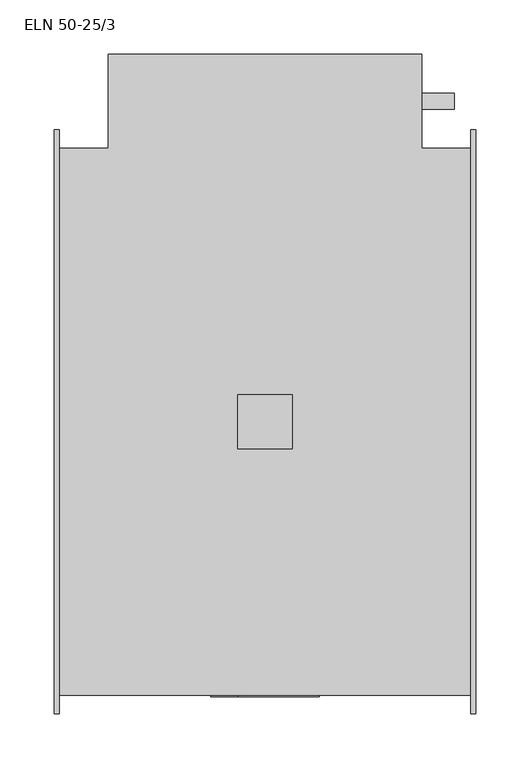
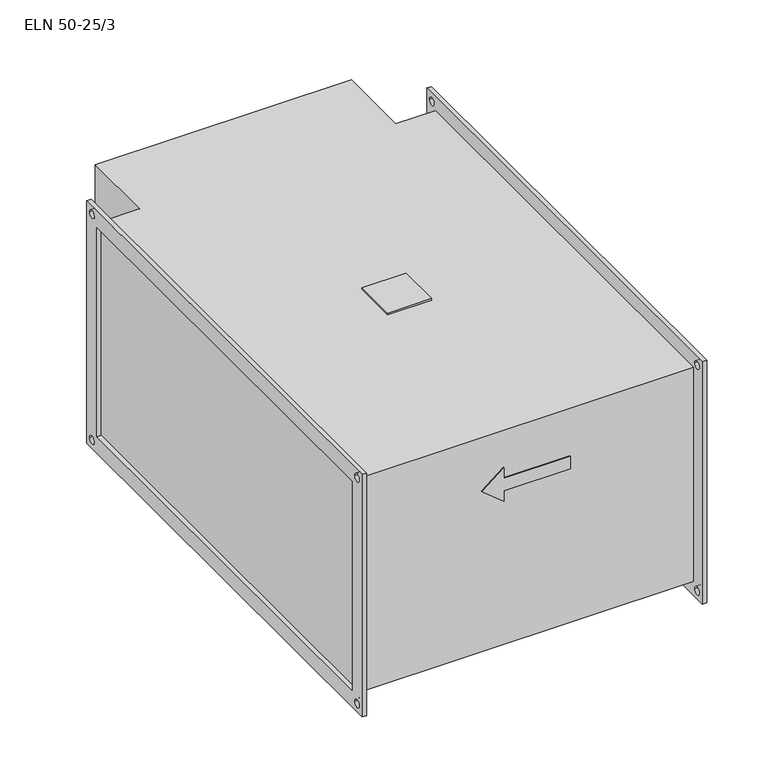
"""IFC4 building model written with IfcOpenShell, lengths in millimetres: proxy geometry, KORF_Нагреватель_Электрический_ELN : ELN 50-25/3."""

from ifc_helpers import new_model, si_unit, point, frame, frame_2d, origin, place, context, project, spatial, polyline, circle_curve, trimmed, segment, composite_curve, outline, extrude, source, transform, mapped, element, save


def eln_50_25_3_0f494fae(model_context):
    return source(origin(), model_context, "Body", "SweptSolid", [
        extrude(outline(polyline([(170.0, -25.0), (170.0, 25.0), (220.0, 25.0), (220.0, -25.0), (170.0, -25.0)])), frame((0.0, 0.0, 128.0), z_axis=(0.0, 0.0, 1.0), x_axis=(1.0, 0.0, 0.0)), (0.0, 0.0, 1.0), 2.0),
        extrude(outline(composite_curve([segment(trimmed(circle_curve(frame_2d((296.5, -64.0)), 7.5), [point((289.0, -64.0))], [point((304.0, -64.0))], False, "CARTESIAN"), True, "CONTINUOUS"), segment(trimmed(circle_curve(frame_2d((296.5, -64.0)), 7.5), [point((304.0, -64.0))], [point((289.0, -64.0))], False, "CARTESIAN"), True, "CONTINUOUS")], self_intersect=False)), frame((340.0, 0.0, 0.0), z_axis=(1.0, 0.0, 0.0), x_axis=(0.0, 1.0, 0.0)), (0.0, 0.0, 1.0), 30.0),
        extrude(outline(composite_curve([segment(trimmed(circle_curve(frame_2d((296.5, -44.0)), 7.5), [point((289.0, -44.0))], [point((304.0, -44.0))], False, "CARTESIAN"), True, "CONTINUOUS"), segment(trimmed(circle_curve(frame_2d((296.5, -44.0)), 7.5), [point((304.0, -44.0))], [point((289.0, -44.0))], False, "CARTESIAN"), True, "CONTINUOUS")], self_intersect=False)), frame((340.0, 0.0, 0.0), z_axis=(1.0, 0.0, 0.0), x_axis=(0.0, 1.0, 0.0)), (0.0, 0.0, 1.0), 30.0),
        extrude(outline(composite_curve([segment(trimmed(circle_curve(frame_2d((296.5, -84.0)), 7.5), [point((289.0, -84.0))], [point((304.0, -84.0))], False, "CARTESIAN"), True, "CONTINUOUS"), segment(trimmed(circle_curve(frame_2d((296.5, -84.0)), 7.5), [point((304.0, -84.0))], [point((289.0, -84.0))], False, "CARTESIAN"), True, "CONTINUOUS")], self_intersect=False)), frame((340.0, 0.0, 0.0), z_axis=(1.0, 0.0, 0.0), x_axis=(0.0, 1.0, 0.0)), (0.0, 0.0, 1.0), 30.0),
        extrude(outline(polyline([(84.0, 170.0), (64.0, 145.0), (44.0, 170.0), (56.5, 170.0), (56.5, 245.0), (71.5, 245.0), (71.5, 170.0), (84.0, 170.0)])), frame((0.0, -254.0, 0.0), z_axis=(0.0, 1.0, 0.0), x_axis=(0.0, 0.0, 1.0)), (0.0, 0.0, 1.0), 1.0),
        extrude(outline(polyline([(385.0, 253.0), (385.0, -253.0), (5.0, -253.0), (5.0, 253.0), (50.0, 253.0), (50.0, 340.0), (340.0, 340.0), (340.0, 253.0), (385.0, 253.0)])), frame((0.0, 0.0, -128.0), z_axis=(0.0, 0.0, 1.0), x_axis=(1.0, 0.0, 0.0)), (0.0, 0.0, 1.0), 256.0),
        extrude(outline(polyline([(-270.0, 145.0), (270.0, 145.0), (270.0, -145.0), (-270.0, -145.0), (-270.0, 145.0)]), holes=[polyline([(-250.0, 125.0), (-250.0, -125.0), (250.0, -125.0), (250.0, 125.0), (-250.0, 125.0)]), composite_curve([segment(trimmed(circle_curve(frame_2d((260.0, 135.0)), 4.5), [point((255.5, 135.0))], [point((264.5, 135.0))], True, "CARTESIAN"), True, "CONTINUOUS"), segment(trimmed(circle_curve(frame_2d((260.0, 135.0)), 4.5), [point((264.5, 135.0))], [point((255.5, 135.0))], True, "CARTESIAN"), True, "CONTINUOUS")], self_intersect=False), composite_curve([segment(trimmed(circle_curve(frame_2d((-260.0, 135.0)), 4.5), [point((-264.5, 135.0))], [point((-255.5, 135.0))], True, "CARTESIAN"), True, "CONTINUOUS"), segment(trimmed(circle_curve(frame_2d((-260.0, 135.0)), 4.5), [point((-255.5, 135.0))], [point((-264.5, 135.0))], True, "CARTESIAN"), True, "CONTINUOUS")], self_intersect=False), composite_curve([segment(trimmed(circle_curve(frame_2d((-260.0, -135.0)), 4.5), [point((-264.5, -135.0))], [point((-255.5, -135.0))], True, "CARTESIAN"), True, "CONTINUOUS"), segment(trimmed(circle_curve(frame_2d((-260.0, -135.0)), 4.5), [point((-255.5, -135.0))], [point((-264.5, -135.0))], True, "CARTESIAN"), True, "CONTINUOUS")], self_intersect=False), composite_curve([segment(trimmed(circle_curve(frame_2d((260.0, -135.0)), 4.5), [point((255.5, -135.0))], [point((264.5, -135.0))], True, "CARTESIAN"), True, "CONTINUOUS"), segment(trimmed(circle_curve(frame_2d((260.0, -135.0)), 4.5), [point((264.5, -135.0))], [point((255.5, -135.0))], True, "CARTESIAN"), True, "CONTINUOUS")], self_intersect=False)]), frame((385.0, 0.0, 0.0), z_axis=(1.0, 0.0, 0.0), x_axis=(0.0, 1.0, 0.0)), (0.0, 0.0, 1.0), 5.0),
        extrude(outline(polyline([(-270.0, 145.0), (270.0, 145.0), (270.0, -145.0), (-270.0, -145.0), (-270.0, 145.0)]), holes=[polyline([(-250.0, 125.0), (-250.0, -125.0), (250.0, -125.0), (250.0, 125.0), (-250.0, 125.0)]), composite_curve([segment(trimmed(circle_curve(frame_2d((260.0, 135.0)), 4.5), [point((255.5, 135.0))], [point((264.5, 135.0))], True, "CARTESIAN"), True, "CONTINUOUS"), segment(trimmed(circle_curve(frame_2d((260.0, 135.0)), 4.5), [point((264.5, 135.0))], [point((255.5, 135.0))], True, "CARTESIAN"), True, "CONTINUOUS")], self_intersect=False), composite_curve([segment(trimmed(circle_curve(frame_2d((-260.0, 135.0)), 4.5), [point((-264.5, 135.0))], [point((-255.5, 135.0))], True, "CARTESIAN"), True, "CONTINUOUS"), segment(trimmed(circle_curve(frame_2d((-260.0, 135.0)), 4.5), [point((-255.5, 135.0))], [point((-264.5, 135.0))], True, "CARTESIAN"), True, "CONTINUOUS")], self_intersect=False), composite_curve([segment(trimmed(circle_curve(frame_2d((-260.0, -135.0)), 4.5), [point((-264.5, -135.0))], [point((-255.5, -135.0))], True, "CARTESIAN"), True, "CONTINUOUS"), segment(trimmed(circle_curve(frame_2d((-260.0, -135.0)), 4.5), [point((-255.5, -135.0))], [point((-264.5, -135.0))], True, "CARTESIAN"), True, "CONTINUOUS")], self_intersect=False), composite_curve([segment(trimmed(circle_curve(frame_2d((260.0, -135.0)), 4.5), [point((255.5, -135.0))], [point((264.5, -135.0))], True, "CARTESIAN"), True, "CONTINUOUS"), segment(trimmed(circle_curve(frame_2d((260.0, -135.0)), 4.5), [point((264.5, -135.0))], [point((255.5, -135.0))], True, "CARTESIAN"), True, "CONTINUOUS")], self_intersect=False)]), frame((0.0, 0.0, 0.0), z_axis=(1.0, 0.0, 0.0), x_axis=(0.0, 1.0, 0.0)), (0.0, 0.0, 1.0), 5.0),
    ])


if __name__ == "__main__":
    model = new_model("IFC4")
    model_context = context("Model", 3, world=origin())
    ifc_project = project(units=[si_unit("LENGTHUNIT", "METRE", prefix="MILLI")], contexts=[model_context])
    site = spatial("IfcSite", under=ifc_project)
    building = spatial("IfcBuilding", under=site)
    placement = place(None, origin())
    eln_50_25_3_shape = eln_50_25_3_0f494fae(model_context)
    element("IfcBuildingElementProxy", 1, Name="KORF_Нагреватель_Электрический_ELN : ELN 50-25/3", ObjectType="KORF_Нагреватель_Электрический_ELN : ELN 50-25/3", at=placement, inside=building, context=model_context, shape_type="MappedRepresentation", body=[
        mapped(eln_50_25_3_shape, transform((0.0, 0.0, 0.0), x_axis=(1.0, 0.0, 0.0), y_axis=(0.0, 1.0, 0.0), z_axis=(0.0, 0.0, 1.0))),
    ])
    save(model, "model.ifc")
